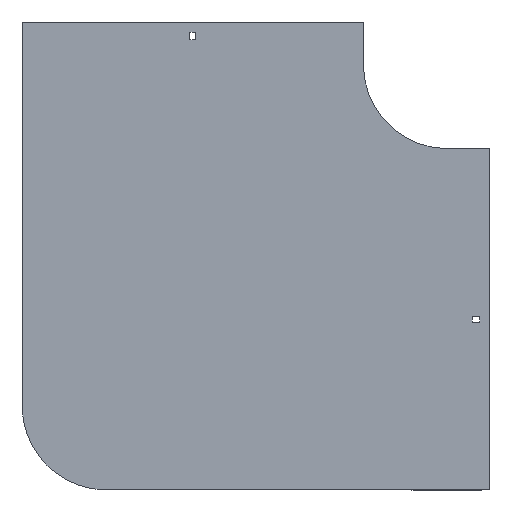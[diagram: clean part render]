
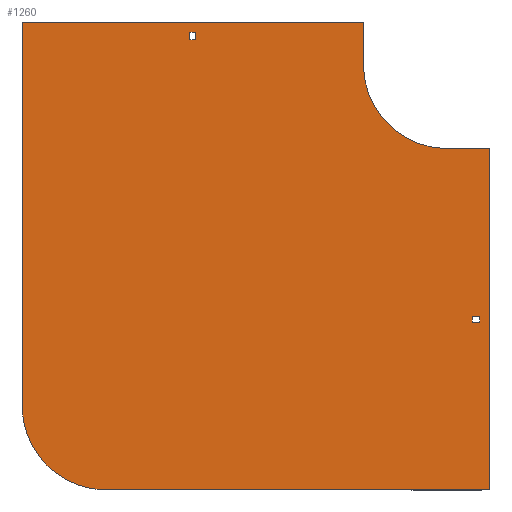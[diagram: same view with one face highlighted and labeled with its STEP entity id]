
A CAD part, front view. The second image highlights one B-rep face of the part: STEP entity #1260.
In plain terms, the highlighted planar face has unit normal (0, -1, 0).
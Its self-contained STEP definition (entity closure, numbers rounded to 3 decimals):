
#11 = EDGE_LOOP ( 'NONE', ( #648, #29, #1213, #864 ) ) ;
#29 = ORIENTED_EDGE ( 'NONE', *, *, #332, .F. ) ;
#53 = VECTOR ( 'NONE', #237, 1000. ) ;
#65 = CARTESIAN_POINT ( 'NONE',  ( -404., 0., -504. ) ) ;
#66 = CARTESIAN_POINT ( 'NONE',  ( -298.75, 0., 29. ) ) ;
#68 = LINE ( 'NONE', #1040, #820 ) ;
#70 = CARTESIAN_POINT ( 'NONE',  ( 38., 0., -305.25 ) ) ;
#82 = ORIENTED_EDGE ( 'NONE', *, *, #340, .F. ) ;
#85 = CARTESIAN_POINT ( 'NONE',  ( -298.75, 0., 29. ) ) ;
#100 = VERTEX_POINT ( 'NONE', #1064 ) ;
#109 = AXIS2_PLACEMENT_3D ( 'NONE', #1235, #477, #137 ) ;
#120 = ORIENTED_EDGE ( 'NONE', *, *, #299, .F. ) ;
#127 = EDGE_CURVE ( 'NONE', #1210, #696, #977, .T. ) ;
#137 = DIRECTION ( 'NONE',  ( 0., 0., -1. ) ) ;
#145 = EDGE_LOOP ( 'NONE', ( #244, #871, #262, #717 ) ) ;
#168 = EDGE_CURVE ( 'NONE', #1353, #180, #1006, .T. ) ;
#175 = ORIENTED_EDGE ( 'NONE', *, *, #529, .F. ) ;
#179 = VECTOR ( 'NONE', #1181, 1000. ) ;
#180 = VERTEX_POINT ( 'NONE', #65 ) ;
#187 = DIRECTION ( 'NONE',  ( 0., 0., 1. ) ) ;
#192 = EDGE_CURVE ( 'NONE', #297, #1317, #1031, .T. ) ;
#213 = LINE ( 'NONE', #424, #963 ) ;
#214 = EDGE_CURVE ( 'NONE', #100, #870, #1267, .T. ) ;
#224 = VERTEX_POINT ( 'NONE', #298 ) ;
#230 = VERTEX_POINT ( 'NONE', #1338 ) ;
#237 = DIRECTION ( 'NONE',  ( 0., 0., -1. ) ) ;
#241 = EDGE_CURVE ( 'NONE', #180, #1158, #1390, .T. ) ;
#244 = ORIENTED_EDGE ( 'NONE', *, *, #214, .T. ) ;
#256 = DIRECTION ( 'NONE',  ( 1., 0., 0. ) ) ;
#259 = LINE ( 'NONE', #1216, #1236 ) ;
#262 = ORIENTED_EDGE ( 'NONE', *, *, #1011, .T. ) ;
#266 = PLANE ( 'NONE',  #109 ) ;
#273 = LINE ( 'NONE', #935, #1291 ) ;
#290 = DIRECTION ( 'NONE',  ( 0., 0., 1. ) ) ;
#295 = CARTESIAN_POINT ( 'NONE',  ( 29., 0., -298.75 ) ) ;
#297 = VERTEX_POINT ( 'NONE', #611 ) ;
#298 = CARTESIAN_POINT ( 'NONE',  ( -504., 0., 50. ) ) ;
#299 = EDGE_CURVE ( 'NONE', #696, #297, #1226, .T. ) ;
#302 = LINE ( 'NONE', #737, #500 ) ;
#307 = DIRECTION ( 'NONE',  ( 0., 0., -1. ) ) ;
#332 = EDGE_CURVE ( 'NONE', #834, #1002, #1378, .T. ) ;
#340 = EDGE_CURVE ( 'NONE', #1317, #1353, #213, .T. ) ;
#372 = EDGE_CURVE ( 'NONE', #605, #834, #302, .T. ) ;
#373 = FACE_BOUND ( 'NONE', #11, .T. ) ;
#376 = CARTESIAN_POINT ( 'NONE',  ( -404., 0., -404. ) ) ;
#389 = CARTESIAN_POINT ( 'NONE',  ( 0., 0., 0. ) ) ;
#404 = VECTOR ( 'NONE', #256, 1000. ) ;
#412 = EDGE_CURVE ( 'NONE', #870, #230, #791, .T. ) ;
#424 = CARTESIAN_POINT ( 'NONE',  ( 50., 0., -100. ) ) ;
#439 = EDGE_CURVE ( 'NONE', #1299, #100, #273, .T. ) ;
#477 = DIRECTION ( 'NONE',  ( 0., -1., 0. ) ) ;
#500 = VECTOR ( 'NONE', #746, 1000. ) ;
#529 = EDGE_CURVE ( 'NONE', #224, #1210, #259, .T. ) ;
#543 = CARTESIAN_POINT ( 'NONE',  ( 38., 0., -305.25 ) ) ;
#579 = EDGE_LOOP ( 'NONE', ( #175, #1088, #742, #842, #82, #721, #120, #937 ) ) ;
#587 = EDGE_CURVE ( 'NONE', #1158, #224, #68, .T. ) ;
#590 = VECTOR ( 'NONE', #656, 1000. ) ;
#605 = VERTEX_POINT ( 'NONE', #295 ) ;
#611 = CARTESIAN_POINT ( 'NONE',  ( 0., 0., -100. ) ) ;
#648 = ORIENTED_EDGE ( 'NONE', *, *, #857, .F. ) ;
#656 = DIRECTION ( 'NONE',  ( 0., 0., -1. ) ) ;
#664 = FACE_BOUND ( 'NONE', #145, .T. ) ;
#671 = AXIS2_PLACEMENT_3D ( 'NONE', #376, #1261, #187 ) ;
#692 = DIRECTION ( 'NONE',  ( 1., 0., 0. ) ) ;
#696 = VERTEX_POINT ( 'NONE', #1083 ) ;
#714 = LINE ( 'NONE', #70, #1280 ) ;
#717 = ORIENTED_EDGE ( 'NONE', *, *, #439, .T. ) ;
#721 = ORIENTED_EDGE ( 'NONE', *, *, #192, .F. ) ;
#723 = VECTOR ( 'NONE', #905, 1000. ) ;
#724 = CARTESIAN_POINT ( 'NONE',  ( 29., 0., -298.75 ) ) ;
#727 = DIRECTION ( 'NONE',  ( 0., 0., -1. ) ) ;
#737 = CARTESIAN_POINT ( 'NONE',  ( 29., 0., -305.25 ) ) ;
#742 = ORIENTED_EDGE ( 'NONE', *, *, #241, .F. ) ;
#746 = DIRECTION ( 'NONE',  ( 0., 0., -1. ) ) ;
#747 = LINE ( 'NONE', #85, #590 ) ;
#751 = CARTESIAN_POINT ( 'NONE',  ( 50., 0., -504. ) ) ;
#758 = CARTESIAN_POINT ( 'NONE',  ( 38., 0., -298.75 ) ) ;
#769 = DIRECTION ( 'NONE',  ( -1., 0., 0. ) ) ;
#791 = LINE ( 'NONE', #1234, #404 ) ;
#807 = AXIS2_PLACEMENT_3D ( 'NONE', #389, #1042, #727 ) ;
#820 = VECTOR ( 'NONE', #939, 1000. ) ;
#828 = LINE ( 'NONE', #724, #1346 ) ;
#834 = VERTEX_POINT ( 'NONE', #1175 ) ;
#842 = ORIENTED_EDGE ( 'NONE', *, *, #168, .F. ) ;
#857 = EDGE_CURVE ( 'NONE', #1002, #1323, #714, .T. ) ;
#859 = EDGE_CURVE ( 'NONE', #1323, #605, #828, .T. ) ;
#864 = ORIENTED_EDGE ( 'NONE', *, *, #859, .F. ) ;
#870 = VERTEX_POINT ( 'NONE', #1345 ) ;
#871 = ORIENTED_EDGE ( 'NONE', *, *, #412, .T. ) ;
#905 = DIRECTION ( 'NONE',  ( 0., 0., 1. ) ) ;
#924 = CARTESIAN_POINT ( 'NONE',  ( 0., 0., -100. ) ) ;
#931 = DIRECTION ( 'NONE',  ( 1., 0., 0. ) ) ;
#935 = CARTESIAN_POINT ( 'NONE',  ( -305.25, 0., 29. ) ) ;
#937 = ORIENTED_EDGE ( 'NONE', *, *, #127, .F. ) ;
#939 = DIRECTION ( 'NONE',  ( 0., 0., 1. ) ) ;
#941 = CARTESIAN_POINT ( 'NONE',  ( -305.25, 0., 29. ) ) ;
#963 = VECTOR ( 'NONE', #307, 1000. ) ;
#977 = LINE ( 'NONE', #1324, #53 ) ;
#1002 = VERTEX_POINT ( 'NONE', #543 ) ;
#1006 = LINE ( 'NONE', #1302, #1177 ) ;
#1011 = EDGE_CURVE ( 'NONE', #230, #1299, #747, .T. ) ;
#1031 = LINE ( 'NONE', #924, #1349 ) ;
#1040 = CARTESIAN_POINT ( 'NONE',  ( -504., 0., -404. ) ) ;
#1042 = DIRECTION ( 'NONE',  ( 0., -1., 0. ) ) ;
#1060 = DIRECTION ( 'NONE',  ( -1., 0., 0. ) ) ;
#1064 = CARTESIAN_POINT ( 'NONE',  ( -305.25, 0., 29. ) ) ;
#1083 = CARTESIAN_POINT ( 'NONE',  ( -100., 0., 0. ) ) ;
#1088 = ORIENTED_EDGE ( 'NONE', *, *, #587, .F. ) ;
#1147 = DIRECTION ( 'NONE',  ( -1., 0., 0. ) ) ;
#1158 = VERTEX_POINT ( 'NONE', #1339 ) ;
#1175 = CARTESIAN_POINT ( 'NONE',  ( 29., 0., -305.25 ) ) ;
#1177 = VECTOR ( 'NONE', #769, 1000. ) ;
#1181 = DIRECTION ( 'NONE',  ( 1., 0., 0. ) ) ;
#1194 = CARTESIAN_POINT ( 'NONE',  ( 29., 0., -305.25 ) ) ;
#1210 = VERTEX_POINT ( 'NONE', #1247 ) ;
#1213 = ORIENTED_EDGE ( 'NONE', *, *, #372, .F. ) ;
#1216 = CARTESIAN_POINT ( 'NONE',  ( -504., 0., 50. ) ) ;
#1226 = CIRCLE ( 'NONE', #807, 100. ) ;
#1234 = CARTESIAN_POINT ( 'NONE',  ( -305.25, 0., 38. ) ) ;
#1235 = CARTESIAN_POINT ( 'NONE',  ( 0., 0., 0. ) ) ;
#1236 = VECTOR ( 'NONE', #692, 1000. ) ;
#1241 = FACE_OUTER_BOUND ( 'NONE', #579, .T. ) ;
#1247 = CARTESIAN_POINT ( 'NONE',  ( -100., 0., 50. ) ) ;
#1260 = ADVANCED_FACE ( 'NONE', ( #664, #1241, #373 ), #266, .T. ) ;
#1261 = DIRECTION ( 'NONE',  ( 0., 1., 0. ) ) ;
#1267 = LINE ( 'NONE', #941, #723 ) ;
#1280 = VECTOR ( 'NONE', #290, 1000. ) ;
#1291 = VECTOR ( 'NONE', #1147, 1000. ) ;
#1299 = VERTEX_POINT ( 'NONE', #66 ) ;
#1302 = CARTESIAN_POINT ( 'NONE',  ( 50., 0., -504. ) ) ;
#1317 = VERTEX_POINT ( 'NONE', #1357 ) ;
#1323 = VERTEX_POINT ( 'NONE', #758 ) ;
#1324 = CARTESIAN_POINT ( 'NONE',  ( -100., 0., 50. ) ) ;
#1338 = CARTESIAN_POINT ( 'NONE',  ( -298.75, 0., 38. ) ) ;
#1339 = CARTESIAN_POINT ( 'NONE',  ( -504., 0., -404. ) ) ;
#1345 = CARTESIAN_POINT ( 'NONE',  ( -305.25, 0., 38. ) ) ;
#1346 = VECTOR ( 'NONE', #1060, 1000. ) ;
#1349 = VECTOR ( 'NONE', #931, 1000. ) ;
#1353 = VERTEX_POINT ( 'NONE', #751 ) ;
#1357 = CARTESIAN_POINT ( 'NONE',  ( 50., 0., -100. ) ) ;
#1378 = LINE ( 'NONE', #1194, #179 ) ;
#1390 = CIRCLE ( 'NONE', #671, 100. ) ;
